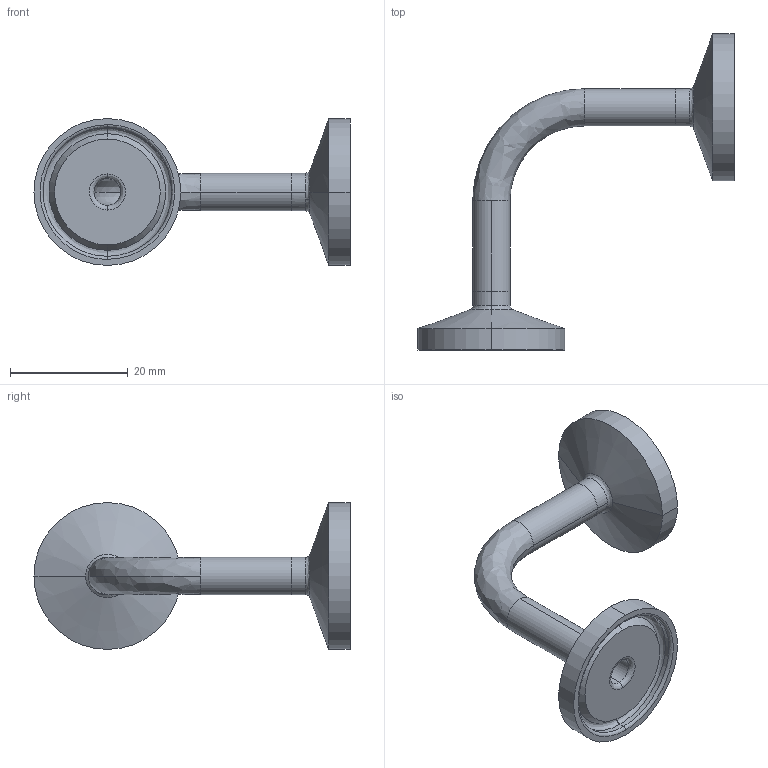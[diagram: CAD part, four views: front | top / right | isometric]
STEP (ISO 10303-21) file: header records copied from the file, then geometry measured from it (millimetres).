
FILE_DESCRIPTION (( 'STEP AP214' ), '1' );
FILE_NAME ('TEG2C6L.25-...STEP', '2016-05-22T10:33:49', ( 'eran' ), ( '' ), 'SwSTEP 2.0', 'SolidWorks 2016', '' );
FILE_SCHEMA (( 'AUTOMOTIVE_DESIGN' ));
Length unit declared in the file: millimetre
Products named in the file (1): TEG2C6L.25-..
Bounding box: 53.8 x 53.8 x 24.99 mm (x, y, z)
Volume: 4920.9 mm3; surface area: 5142.2 mm2
Topology: 3 solids, 3 shells, 60 faces, 136 edges, 84 vertices
Faces by surface type: cylinder 24, bspline 20, plane 8, cone 8
Entity records: 2000 total; most frequent: CARTESIAN_POINT 605, DIRECTION 306, ORIENTED_EDGE 272, AXIS2_PLACEMENT_3D 137, EDGE_CURVE 136, CIRCLE 96, VERTEX_POINT 84, EDGE_LOOP 68
